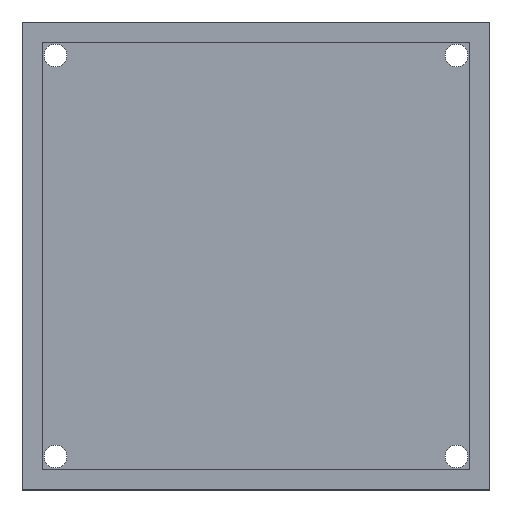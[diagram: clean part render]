
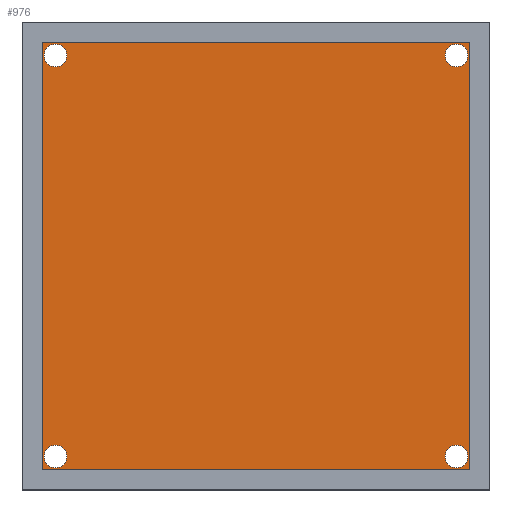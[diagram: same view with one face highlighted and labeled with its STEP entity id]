
A CAD part, top view. The second image highlights one B-rep face of the part: STEP entity #976.
In plain terms, the highlighted planar face has unit normal (0, 0, 1).
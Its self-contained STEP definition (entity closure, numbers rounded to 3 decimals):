
#282 = PLANE('',#283);
#283 = AXIS2_PLACEMENT_3D('',#284,#285,#286);
#284 = CARTESIAN_POINT('',(58.,33.,19.5));
#285 = DIRECTION('',(0.,1.,0.));
#286 = DIRECTION('',(0.,0.,1.));
#308 = PLANE('',#309);
#309 = AXIS2_PLACEMENT_3D('',#310,#311,#312);
#310 = CARTESIAN_POINT('',(58.,33.,19.5));
#311 = DIRECTION('',(1.,0.,0.));
#312 = DIRECTION('',(0.,0.,1.));
#334 = PLANE('',#335);
#335 = AXIS2_PLACEMENT_3D('',#336,#337,#338);
#336 = CARTESIAN_POINT('',(58.,97.,19.5));
#337 = DIRECTION('',(0.,1.,0.));
#338 = DIRECTION('',(0.,0.,1.));
#358 = PLANE('',#359);
#359 = AXIS2_PLACEMENT_3D('',#360,#361,#362);
#360 = CARTESIAN_POINT('',(122.,33.,19.5));
#361 = DIRECTION('',(1.,0.,0.));
#362 = DIRECTION('',(0.,0.,1.));
#464 = CYLINDRICAL_SURFACE('',#465,1.7);
#465 = AXIS2_PLACEMENT_3D('',#466,#467,#468);
#466 = CARTESIAN_POINT('',(60.,35.,17.));
#467 = DIRECTION('',(0.,0.,1.));
#468 = DIRECTION('',(1.,0.,-0.));
#495 = CYLINDRICAL_SURFACE('',#496,1.7);
#496 = AXIS2_PLACEMENT_3D('',#497,#498,#499);
#497 = CARTESIAN_POINT('',(120.,35.,17.));
#498 = DIRECTION('',(0.,0.,1.));
#499 = DIRECTION('',(1.,0.,-0.));
#526 = CYLINDRICAL_SURFACE('',#527,1.7);
#527 = AXIS2_PLACEMENT_3D('',#528,#529,#530);
#528 = CARTESIAN_POINT('',(60.,95.,17.));
#529 = DIRECTION('',(0.,0.,1.));
#530 = DIRECTION('',(1.,0.,-0.));
#557 = CYLINDRICAL_SURFACE('',#558,1.7);
#558 = AXIS2_PLACEMENT_3D('',#559,#560,#561);
#559 = CARTESIAN_POINT('',(120.,95.,17.));
#560 = DIRECTION('',(0.,0.,1.));
#561 = DIRECTION('',(1.,0.,-0.));
#580 = VERTEX_POINT('',#581);
#581 = CARTESIAN_POINT('',(122.,33.,19.5));
#602 = EDGE_CURVE('',#603,#580,#605,.T.);
#603 = VERTEX_POINT('',#604);
#604 = CARTESIAN_POINT('',(58.,33.,19.5));
#605 = SURFACE_CURVE('',#606,(#610,#617),.PCURVE_S1.);
#606 = LINE('',#607,#608);
#607 = CARTESIAN_POINT('',(58.,33.,19.5));
#608 = VECTOR('',#609,1.);
#609 = DIRECTION('',(1.,0.,0.));
#610 = PCURVE('',#282,#611);
#611 = DEFINITIONAL_REPRESENTATION('',(#612),#616);
#612 = LINE('',#613,#614);
#613 = CARTESIAN_POINT('',(0.,0.));
#614 = VECTOR('',#615,1.);
#615 = DIRECTION('',(0.,1.));
#616 = ( GEOMETRIC_REPRESENTATION_CONTEXT(2) 
PARAMETRIC_REPRESENTATION_CONTEXT() REPRESENTATION_CONTEXT('2D SPACE',''
  ) );
#617 = PCURVE('',#618,#623);
#618 = PLANE('',#619);
#619 = AXIS2_PLACEMENT_3D('',#620,#621,#622);
#620 = CARTESIAN_POINT('',(58.,33.,19.5));
#621 = DIRECTION('',(0.,0.,1.));
#622 = DIRECTION('',(1.,0.,0.));
#623 = DEFINITIONAL_REPRESENTATION('',(#624),#628);
#624 = LINE('',#625,#626);
#625 = CARTESIAN_POINT('',(0.,0.));
#626 = VECTOR('',#627,1.);
#627 = DIRECTION('',(1.,0.));
#628 = ( GEOMETRIC_REPRESENTATION_CONTEXT(2) 
PARAMETRIC_REPRESENTATION_CONTEXT() REPRESENTATION_CONTEXT('2D SPACE',''
  ) );
#656 = EDGE_CURVE('',#580,#657,#659,.T.);
#657 = VERTEX_POINT('',#658);
#658 = CARTESIAN_POINT('',(122.,97.,19.5));
#659 = SURFACE_CURVE('',#660,(#664,#671),.PCURVE_S1.);
#660 = LINE('',#661,#662);
#661 = CARTESIAN_POINT('',(122.,33.,19.5));
#662 = VECTOR('',#663,1.);
#663 = DIRECTION('',(0.,1.,0.));
#664 = PCURVE('',#358,#665);
#665 = DEFINITIONAL_REPRESENTATION('',(#666),#670);
#666 = LINE('',#667,#668);
#667 = CARTESIAN_POINT('',(0.,0.));
#668 = VECTOR('',#669,1.);
#669 = DIRECTION('',(0.,-1.));
#670 = ( GEOMETRIC_REPRESENTATION_CONTEXT(2) 
PARAMETRIC_REPRESENTATION_CONTEXT() REPRESENTATION_CONTEXT('2D SPACE',''
  ) );
#671 = PCURVE('',#618,#672);
#672 = DEFINITIONAL_REPRESENTATION('',(#673),#677);
#673 = LINE('',#674,#675);
#674 = CARTESIAN_POINT('',(64.,0.));
#675 = VECTOR('',#676,1.);
#676 = DIRECTION('',(0.,1.));
#677 = ( GEOMETRIC_REPRESENTATION_CONTEXT(2) 
PARAMETRIC_REPRESENTATION_CONTEXT() REPRESENTATION_CONTEXT('2D SPACE',''
  ) );
#705 = EDGE_CURVE('',#706,#657,#708,.T.);
#706 = VERTEX_POINT('',#707);
#707 = CARTESIAN_POINT('',(58.,97.,19.5));
#708 = SURFACE_CURVE('',#709,(#713,#720),.PCURVE_S1.);
#709 = LINE('',#710,#711);
#710 = CARTESIAN_POINT('',(58.,97.,19.5));
#711 = VECTOR('',#712,1.);
#712 = DIRECTION('',(1.,0.,0.));
#713 = PCURVE('',#334,#714);
#714 = DEFINITIONAL_REPRESENTATION('',(#715),#719);
#715 = LINE('',#716,#717);
#716 = CARTESIAN_POINT('',(0.,0.));
#717 = VECTOR('',#718,1.);
#718 = DIRECTION('',(0.,1.));
#719 = ( GEOMETRIC_REPRESENTATION_CONTEXT(2) 
PARAMETRIC_REPRESENTATION_CONTEXT() REPRESENTATION_CONTEXT('2D SPACE',''
  ) );
#720 = PCURVE('',#618,#721);
#721 = DEFINITIONAL_REPRESENTATION('',(#722),#726);
#722 = LINE('',#723,#724);
#723 = CARTESIAN_POINT('',(0.,64.));
#724 = VECTOR('',#725,1.);
#725 = DIRECTION('',(1.,0.));
#726 = ( GEOMETRIC_REPRESENTATION_CONTEXT(2) 
PARAMETRIC_REPRESENTATION_CONTEXT() REPRESENTATION_CONTEXT('2D SPACE',''
  ) );
#754 = EDGE_CURVE('',#603,#706,#755,.T.);
#755 = SURFACE_CURVE('',#756,(#760,#767),.PCURVE_S1.);
#756 = LINE('',#757,#758);
#757 = CARTESIAN_POINT('',(58.,33.,19.5));
#758 = VECTOR('',#759,1.);
#759 = DIRECTION('',(0.,1.,0.));
#760 = PCURVE('',#308,#761);
#761 = DEFINITIONAL_REPRESENTATION('',(#762),#766);
#762 = LINE('',#763,#764);
#763 = CARTESIAN_POINT('',(0.,0.));
#764 = VECTOR('',#765,1.);
#765 = DIRECTION('',(0.,-1.));
#766 = ( GEOMETRIC_REPRESENTATION_CONTEXT(2) 
PARAMETRIC_REPRESENTATION_CONTEXT() REPRESENTATION_CONTEXT('2D SPACE',''
  ) );
#767 = PCURVE('',#618,#768);
#768 = DEFINITIONAL_REPRESENTATION('',(#769),#773);
#769 = LINE('',#770,#771);
#770 = CARTESIAN_POINT('',(0.,0.));
#771 = VECTOR('',#772,1.);
#772 = DIRECTION('',(0.,1.));
#773 = ( GEOMETRIC_REPRESENTATION_CONTEXT(2) 
PARAMETRIC_REPRESENTATION_CONTEXT() REPRESENTATION_CONTEXT('2D SPACE',''
  ) );
#780 = EDGE_CURVE('',#781,#781,#783,.T.);
#781 = VERTEX_POINT('',#782);
#782 = CARTESIAN_POINT('',(61.7,35.,19.5));
#783 = SURFACE_CURVE('',#784,(#789,#796),.PCURVE_S1.);
#784 = CIRCLE('',#785,1.7);
#785 = AXIS2_PLACEMENT_3D('',#786,#787,#788);
#786 = CARTESIAN_POINT('',(60.,35.,19.5));
#787 = DIRECTION('',(0.,0.,1.));
#788 = DIRECTION('',(1.,0.,-0.));
#789 = PCURVE('',#464,#790);
#790 = DEFINITIONAL_REPRESENTATION('',(#791),#795);
#791 = LINE('',#792,#793);
#792 = CARTESIAN_POINT('',(0.,2.5));
#793 = VECTOR('',#794,1.);
#794 = DIRECTION('',(1.,0.));
#795 = ( GEOMETRIC_REPRESENTATION_CONTEXT(2) 
PARAMETRIC_REPRESENTATION_CONTEXT() REPRESENTATION_CONTEXT('2D SPACE',''
  ) );
#796 = PCURVE('',#618,#797);
#797 = DEFINITIONAL_REPRESENTATION('',(#798),#802);
#798 = CIRCLE('',#799,1.7);
#799 = AXIS2_PLACEMENT_2D('',#800,#801);
#800 = CARTESIAN_POINT('',(2.,2.));
#801 = DIRECTION('',(1.,0.));
#802 = ( GEOMETRIC_REPRESENTATION_CONTEXT(2) 
PARAMETRIC_REPRESENTATION_CONTEXT() REPRESENTATION_CONTEXT('2D SPACE',''
  ) );
#830 = EDGE_CURVE('',#831,#831,#833,.T.);
#831 = VERTEX_POINT('',#832);
#832 = CARTESIAN_POINT('',(121.7,35.,19.5));
#833 = SURFACE_CURVE('',#834,(#839,#846),.PCURVE_S1.);
#834 = CIRCLE('',#835,1.7);
#835 = AXIS2_PLACEMENT_3D('',#836,#837,#838);
#836 = CARTESIAN_POINT('',(120.,35.,19.5));
#837 = DIRECTION('',(0.,0.,1.));
#838 = DIRECTION('',(1.,0.,-0.));
#839 = PCURVE('',#495,#840);
#840 = DEFINITIONAL_REPRESENTATION('',(#841),#845);
#841 = LINE('',#842,#843);
#842 = CARTESIAN_POINT('',(0.,2.5));
#843 = VECTOR('',#844,1.);
#844 = DIRECTION('',(1.,0.));
#845 = ( GEOMETRIC_REPRESENTATION_CONTEXT(2) 
PARAMETRIC_REPRESENTATION_CONTEXT() REPRESENTATION_CONTEXT('2D SPACE',''
  ) );
#846 = PCURVE('',#618,#847);
#847 = DEFINITIONAL_REPRESENTATION('',(#848),#852);
#848 = CIRCLE('',#849,1.7);
#849 = AXIS2_PLACEMENT_2D('',#850,#851);
#850 = CARTESIAN_POINT('',(62.,2.));
#851 = DIRECTION('',(1.,0.));
#852 = ( GEOMETRIC_REPRESENTATION_CONTEXT(2) 
PARAMETRIC_REPRESENTATION_CONTEXT() REPRESENTATION_CONTEXT('2D SPACE',''
  ) );
#880 = EDGE_CURVE('',#881,#881,#883,.T.);
#881 = VERTEX_POINT('',#882);
#882 = CARTESIAN_POINT('',(61.7,95.,19.5));
#883 = SURFACE_CURVE('',#884,(#889,#896),.PCURVE_S1.);
#884 = CIRCLE('',#885,1.7);
#885 = AXIS2_PLACEMENT_3D('',#886,#887,#888);
#886 = CARTESIAN_POINT('',(60.,95.,19.5));
#887 = DIRECTION('',(0.,0.,1.));
#888 = DIRECTION('',(1.,0.,-0.));
#889 = PCURVE('',#526,#890);
#890 = DEFINITIONAL_REPRESENTATION('',(#891),#895);
#891 = LINE('',#892,#893);
#892 = CARTESIAN_POINT('',(0.,2.5));
#893 = VECTOR('',#894,1.);
#894 = DIRECTION('',(1.,0.));
#895 = ( GEOMETRIC_REPRESENTATION_CONTEXT(2) 
PARAMETRIC_REPRESENTATION_CONTEXT() REPRESENTATION_CONTEXT('2D SPACE',''
  ) );
#896 = PCURVE('',#618,#897);
#897 = DEFINITIONAL_REPRESENTATION('',(#898),#902);
#898 = CIRCLE('',#899,1.7);
#899 = AXIS2_PLACEMENT_2D('',#900,#901);
#900 = CARTESIAN_POINT('',(2.,62.));
#901 = DIRECTION('',(1.,0.));
#902 = ( GEOMETRIC_REPRESENTATION_CONTEXT(2) 
PARAMETRIC_REPRESENTATION_CONTEXT() REPRESENTATION_CONTEXT('2D SPACE',''
  ) );
#930 = EDGE_CURVE('',#931,#931,#933,.T.);
#931 = VERTEX_POINT('',#932);
#932 = CARTESIAN_POINT('',(121.7,95.,19.5));
#933 = SURFACE_CURVE('',#934,(#939,#946),.PCURVE_S1.);
#934 = CIRCLE('',#935,1.7);
#935 = AXIS2_PLACEMENT_3D('',#936,#937,#938);
#936 = CARTESIAN_POINT('',(120.,95.,19.5));
#937 = DIRECTION('',(0.,0.,1.));
#938 = DIRECTION('',(1.,0.,-0.));
#939 = PCURVE('',#557,#940);
#940 = DEFINITIONAL_REPRESENTATION('',(#941),#945);
#941 = LINE('',#942,#943);
#942 = CARTESIAN_POINT('',(0.,2.5));
#943 = VECTOR('',#944,1.);
#944 = DIRECTION('',(1.,0.));
#945 = ( GEOMETRIC_REPRESENTATION_CONTEXT(2) 
PARAMETRIC_REPRESENTATION_CONTEXT() REPRESENTATION_CONTEXT('2D SPACE',''
  ) );
#946 = PCURVE('',#618,#947);
#947 = DEFINITIONAL_REPRESENTATION('',(#948),#952);
#948 = CIRCLE('',#949,1.7);
#949 = AXIS2_PLACEMENT_2D('',#950,#951);
#950 = CARTESIAN_POINT('',(62.,62.));
#951 = DIRECTION('',(1.,0.));
#952 = ( GEOMETRIC_REPRESENTATION_CONTEXT(2) 
PARAMETRIC_REPRESENTATION_CONTEXT() REPRESENTATION_CONTEXT('2D SPACE',''
  ) );
#976 = ADVANCED_FACE('',(#977,#983,#986,#989,#992),#618,.T.);
#977 = FACE_BOUND('',#978,.T.);
#978 = EDGE_LOOP('',(#979,#980,#981,#982));
#979 = ORIENTED_EDGE('',*,*,#754,.F.);
#980 = ORIENTED_EDGE('',*,*,#602,.T.);
#981 = ORIENTED_EDGE('',*,*,#656,.T.);
#982 = ORIENTED_EDGE('',*,*,#705,.F.);
#983 = FACE_BOUND('',#984,.T.);
#984 = EDGE_LOOP('',(#985));
#985 = ORIENTED_EDGE('',*,*,#780,.F.);
#986 = FACE_BOUND('',#987,.T.);
#987 = EDGE_LOOP('',(#988));
#988 = ORIENTED_EDGE('',*,*,#830,.F.);
#989 = FACE_BOUND('',#990,.T.);
#990 = EDGE_LOOP('',(#991));
#991 = ORIENTED_EDGE('',*,*,#880,.F.);
#992 = FACE_BOUND('',#993,.T.);
#993 = EDGE_LOOP('',(#994));
#994 = ORIENTED_EDGE('',*,*,#930,.F.);
